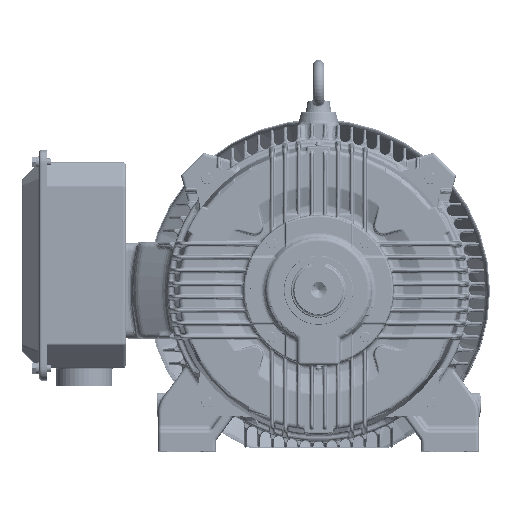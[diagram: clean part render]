
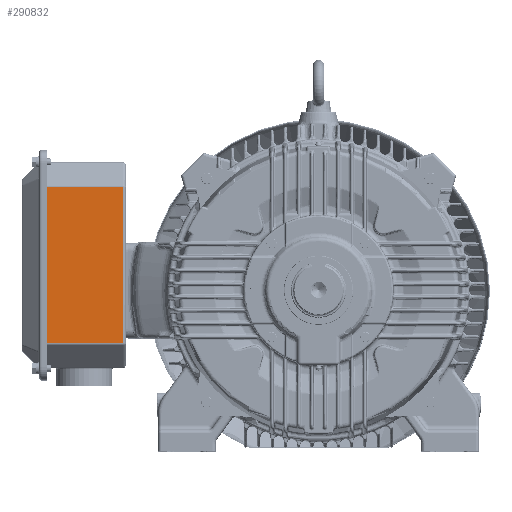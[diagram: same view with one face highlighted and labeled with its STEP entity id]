
A CAD part, top view. The second image highlights one B-rep face of the part: STEP entity #290832.
In plain terms, the highlighted planar face has unit normal (0, 0, 1).
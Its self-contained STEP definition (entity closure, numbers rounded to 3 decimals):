
#4101 = VERTEX_POINT ( 'NONE', #312154 ) ;
#22090 = LINE ( 'NONE', #410753, #491705 ) ;
#33976 = CARTESIAN_POINT ( 'NONE',  ( -18.563, 7.076, 6.276 ) ) ;
#53693 = DIRECTION ( 'NONE',  ( 0., -1., 0. ) ) ;
#61922 = DIRECTION ( 'NONE',  ( 0., -1., 0. ) ) ;
#62116 = CARTESIAN_POINT ( 'NONE',  ( -18.76, 8.756, 6.276 ) ) ;
#66251 = EDGE_CURVE ( 'NONE', #220904, #173890, #238759, .T. ) ;
#92998 = VECTOR ( 'NONE', #496180, 39.37 ) ;
#119057 = AXIS2_PLACEMENT_3D ( 'NONE', #62116, #320250, #53693 ) ;
#154424 = ORIENTED_EDGE ( 'NONE', *, *, #525446, .T. ) ;
#165774 = DIRECTION ( 'NONE',  ( 1., 0., 0. ) ) ;
#173890 = VERTEX_POINT ( 'NONE', #512890 ) ;
#182022 = VECTOR ( 'NONE', #165774, 39.37 ) ;
#188075 = CARTESIAN_POINT ( 'NONE',  ( -13.386, -3.611, 6.276 ) ) ;
#192604 = CARTESIAN_POINT ( 'NONE',  ( -18.76, 7.076, 6.276 ) ) ;
#199016 = CARTESIAN_POINT ( 'NONE',  ( -13.386, 7.157, 6.276 ) ) ;
#220904 = VERTEX_POINT ( 'NONE', #188075 ) ;
#225185 = EDGE_LOOP ( 'NONE', ( #501993, #234029, #438570, #154424 ) ) ;
#234029 = ORIENTED_EDGE ( 'NONE', *, *, #513032, .T. ) ;
#235086 = FACE_OUTER_BOUND ( 'NONE', #225185, .T. ) ;
#238759 = LINE ( 'NONE', #199016, #410836 ) ;
#290832 = ADVANCED_FACE ( 'NONE', ( #235086 ), #402569, .F. ) ;
#312154 = CARTESIAN_POINT ( 'NONE',  ( -18.563, -3.611, 6.276 ) ) ;
#320250 = DIRECTION ( 'NONE',  ( 0., 0., -1. ) ) ;
#347122 = LINE ( 'NONE', #551671, #182022 ) ;
#374912 = VERTEX_POINT ( 'NONE', #33976 ) ;
#402569 = PLANE ( 'NONE',  #119057 ) ;
#410753 = CARTESIAN_POINT ( 'NONE',  ( -18.563, 8.756, 6.276 ) ) ;
#410836 = VECTOR ( 'NONE', #459996, 39.37 ) ;
#422131 = LINE ( 'NONE', #192604, #92998 ) ;
#438570 = ORIENTED_EDGE ( 'NONE', *, *, #66251, .T. ) ;
#444300 = EDGE_CURVE ( 'NONE', #374912, #4101, #22090, .T. ) ;
#459996 = DIRECTION ( 'NONE',  ( 0., 1., 0. ) ) ;
#491705 = VECTOR ( 'NONE', #61922, 39.37 ) ;
#496180 = DIRECTION ( 'NONE',  ( -1., 0., 0. ) ) ;
#501993 = ORIENTED_EDGE ( 'NONE', *, *, #444300, .T. ) ;
#512890 = CARTESIAN_POINT ( 'NONE',  ( -13.386, 7.076, 6.276 ) ) ;
#513032 = EDGE_CURVE ( 'NONE', #4101, #220904, #347122, .T. ) ;
#525446 = EDGE_CURVE ( 'NONE', #173890, #374912, #422131, .T. ) ;
#551671 = CARTESIAN_POINT ( 'NONE',  ( -13.386, -3.611, 6.276 ) ) ;
